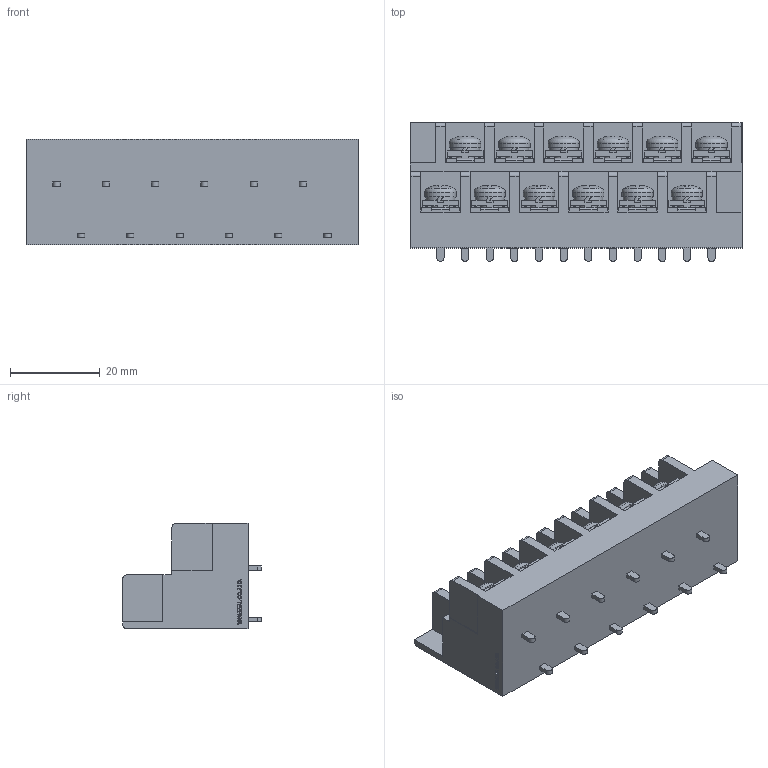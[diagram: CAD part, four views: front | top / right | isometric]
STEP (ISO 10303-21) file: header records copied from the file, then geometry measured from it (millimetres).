
FILE_DESCRIPTION(/* description */ ('Alibre Inc.'),/* implementation_level */ '2;1');
FILE_NAME(/* name */ 'export0',/* time_stamp */ '2016-08-05T11:48:26+09:00',/* author */ (''),/* organization */ (''),/* preprocessor_version */ 'ST-DEVELOPER v14',/* originating_system */ 'Alibre',/* authorisation */ '');
FILE_SCHEMA (('CONFIG_CONTROL_DESIGN'));
Length unit declared in the file: centimetre
Products named in the file (1): ID_1
Bounding box: 74.1 x 31 x 23.5 mm (x, y, z)
Volume: 31225.1 mm3; surface area: 14677.7 mm2
Topology: 1 solids, 113 shells, 2633 faces, 6879 edges, 4534 vertices
Faces by surface type: plane 2034, bspline 416, cylinder 99, cone 48, torus 24, sphere 12
Full cylindrical faces by diameter (mm): 4 x12, 7 x12
Entity records: 76822 total; most frequent: CARTESIAN_POINT 17759, ORIENTED_EDGE 13734, DIRECTION 8519, EDGE_CURVE 6819, VECTOR 5147, LINE 5147, VERTEX_POINT 4522, EDGE_LOOP 2847
